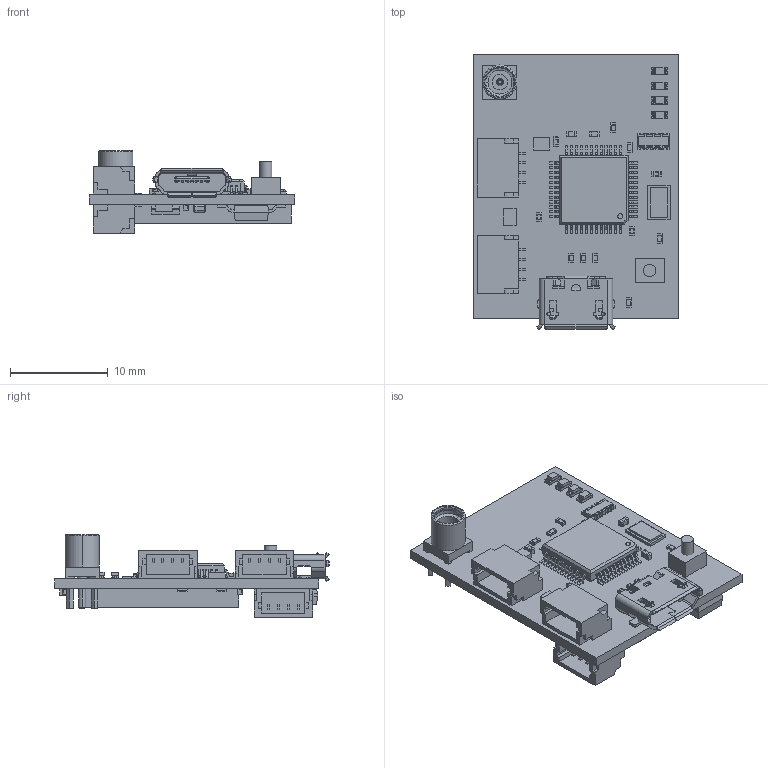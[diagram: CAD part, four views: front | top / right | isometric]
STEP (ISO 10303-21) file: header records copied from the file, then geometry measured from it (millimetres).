
FILE_DESCRIPTION(('Open CASCADE Model'),'2;1');
FILE_NAME('Open CASCADE Shape Model','2013-11-07T13:31:45',('Author'),( 'Open CASCADE'),'Open CASCADE STEP processor 6.2','Open CASCADE 6.2' ,'Unknown');
FILE_SCHEMA(('AUTOMOTIVE_DESIGN { 1 0 10303 214 1 1 1 1 }'));
Length unit declared in the file: millimetre
Products named in the file (73): PCB; Board; U3; 671952168; Cylinder; 645299904; Extruded; R13; res0402; R11; C14; 0402HD; User_Library-V0402HD_Anschl_X_FCsse_1; User_Library-V0402HD_K_X_F6rper_1; X1; 645300032; 645300160; U2; User_Library-SOT-223-1; U1; LQFP48; SKT1; 7518; RF1; 645299520; R10; R9; R8; R7; R6; R5; R4; R3; R2; R1; L2; 645300544; L1; FIL2; 645300416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
Assembly tree (97 placements, depth 4):
  PCB
    Board
    U3
      671952168
        Cylinder
      645299904
        Extruded
    R13
      res0402
    R11
      res0402
    C14
      0402HD
        User_Library-V0402HD_Anschl_X_FCsse_1
        User_Library-V0402HD_K_X_F6rper_1
    X1
      645300032
        Extruded
      645300160
        Extruded
    U2
      User_Library-SOT-223-1
    U1
      LQFP48
    SKT1
      7518
    RF1
      645299520
        Extruded
    R10
      res0402
    R9
      res0402
    R8
      res0402
    R7
      res0402
    R6
      res0402
    R5
      res0402
    R4
      res0402
    R3
      res0402
    R2
      res0402
    R1
      res0402
    L2
      645300544
        Extruded
    L1
      645300544
        Extruded
    FIL2
      645300416
        Extruded
    FIL1
      645300288
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Bounding box: 21 x 28.06 x 8.44 mm (x, y, z)
Volume: 1421 mm3; surface area: 3308 mm2
Topology: 77 solids, 77 shells, 2997 faces, 7636 edges, 4801 vertices
Faces by surface type: plane 2155, cylinder 604, bspline 210, sphere 16, cone 10, torus 2
Full cylindrical faces by diameter (mm): 0.8 x5, 1.27 x1
Entity records: 133786 total; most frequent: CARTESIAN_POINT 33308, DIRECTION 15822, LINE 10451, VECTOR 10451, ORIENTED_EDGE 9108, PCURVE 9108, DEFINITIONAL_REPRESENTATION 9108, EDGE_CURVE 4554
